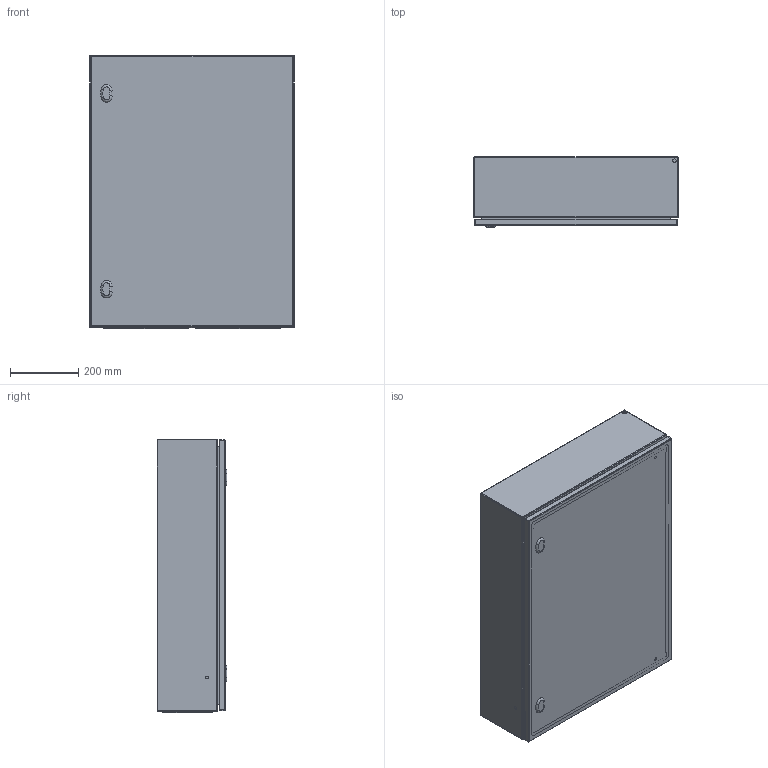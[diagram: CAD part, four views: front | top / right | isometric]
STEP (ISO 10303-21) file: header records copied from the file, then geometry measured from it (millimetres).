
FILE_DESCRIPTION(/* description */ ('STEP AP214'),/* implementation_level */ '2;1');
FILE_NAME(/* name */ 'EC060820-LOD400',/* time_stamp */ '2025-07-31T14:52:25+02:00',/* author */ ('License CC BY-ND 4.0'),/* organization */ ('CADENAS'),/* preprocessor_version */ 'ST-DEVELOPER v19.3',/* originating_system */ 'PARTsolutions',/* authorisation */ ' ');
FILE_SCHEMA (('AUTOMOTIVE_DESIGN {1 0 10303 214 3 1 1}'));
Length unit declared in the file: millimetre
Products named in the file (5): EC060820-LOD400; EC060820-LOD400_cabinet; EC060820-LOD400_door; EC060820-LOD400_bottom_plate; EC060820-LOD400_inner_plate
Assembly tree (5 placements, depth 2):
  EC060820-LOD400
    EC060820-LOD400_cabinet
    EC060820-LOD400_door
    EC060820-LOD400_bottom_plate  x2
    EC060820-LOD400_inner_plate
Bounding box: 600 x 205 x 804 mm (x, y, z)
Volume: 3565565.8 mm3; surface area: 4213324.8 mm2
Topology: 5 solids, 5 shells, 706 faces, 1696 edges, 1094 vertices
Faces by surface type: cylinder 284, plane 264, torus 80, cone 78
Full cylindrical faces by diameter (mm): 1 x64, 4.5 x62, 5 x4, 5.5 x4, 6 x4, 7 x4, 8 x12, 10 x10, 14 x4
Entity records: 15443 total; most frequent: DIRECTION 2812, CARTESIAN_POINT 2496, ORIENTED_EDGE 2236, AXIS2_PLACEMENT_3D 1146, EDGE_CURVE 1118, EDGE_LOOP 976, FACE_BOUND 976, VERTEX_POINT 830
